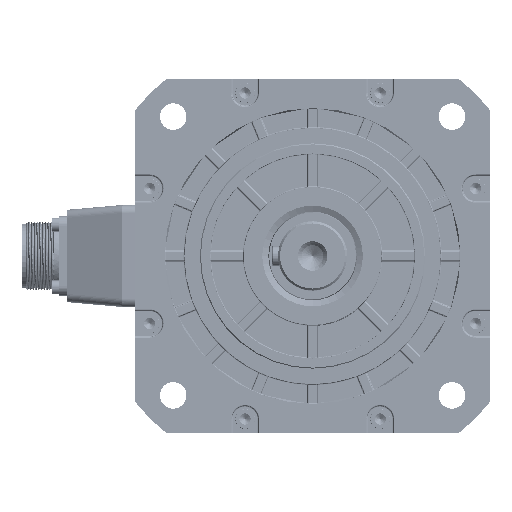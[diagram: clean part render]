
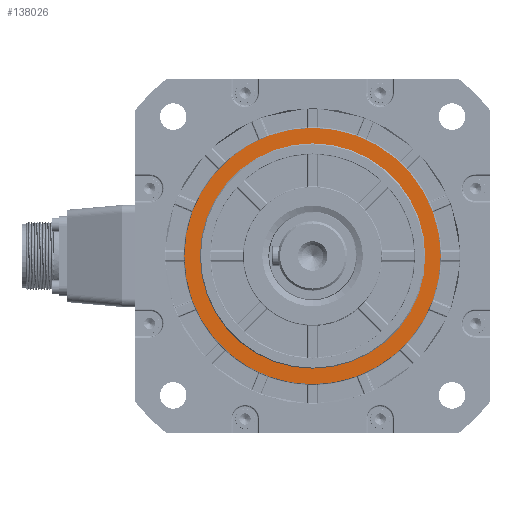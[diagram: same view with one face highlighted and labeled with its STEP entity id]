
A CAD part, left-side view. The second image highlights one B-rep face of the part: STEP entity #138026.
In plain terms, the highlighted planar face has unit normal (-1, 0, 0).
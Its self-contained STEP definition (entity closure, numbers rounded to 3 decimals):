
#117966=CARTESIAN_POINT('',(3.2,0.,0.));
#117967=DIRECTION('',(-1.,0.,0.));
#117968=DIRECTION('',(0.,1.,0.));
#117969=AXIS2_PLACEMENT_3D('',#117966,#117967,#117968);
#117971=CARTESIAN_POINT('',(3.2,0.,0.));
#117972=DIRECTION('',(1.,0.,0.));
#117973=DIRECTION('',(0.,1.,0.));
#117974=AXIS2_PLACEMENT_3D('',#117971,#117972,#117973);
#118016=CARTESIAN_POINT('',(3.2,0.,0.));
#118017=DIRECTION('',(-1.,0.,0.));
#118018=DIRECTION('',(0.,0.,-1.));
#118019=AXIS2_PLACEMENT_3D('',#118016,#118017,#118018);
#118021=CARTESIAN_POINT('',(3.2,0.,0.));
#118022=DIRECTION('',(-1.,0.,0.));
#118023=DIRECTION('',(0.,0.,1.));
#118024=AXIS2_PLACEMENT_3D('',#118021,#118022,#118023);
#126648=CARTESIAN_POINT('',(3.2,57.15,0.));
#126649=CARTESIAN_POINT('',(3.2,-57.15,0.));
#126650=VERTEX_POINT('',#126648);
#126651=VERTEX_POINT('',#126649);
#126868=CARTESIAN_POINT('',(3.2,0.,-65.));
#126869=CARTESIAN_POINT('',(3.2,0.,65.));
#126870=VERTEX_POINT('',#126868);
#126871=VERTEX_POINT('',#126869);
#138009=CARTESIAN_POINT('',(3.2,0.,0.));
#138010=DIRECTION('',(1.,0.,0.));
#138011=DIRECTION('',(0.,-1.,0.));
#138012=AXIS2_PLACEMENT_3D('',#138009,#138010,#138011);
#138013=PLANE('',#138012);
#138015=ORIENTED_EDGE('',*,*,#138014,.F.);
#138017=ORIENTED_EDGE('',*,*,#138016,.F.);
#138018=EDGE_LOOP('',(#138015,#138017));
#138019=FACE_OUTER_BOUND('',#138018,.F.);
#138021=ORIENTED_EDGE('',*,*,#138020,.T.);
#138023=ORIENTED_EDGE('',*,*,#138022,.F.);
#138024=EDGE_LOOP('',(#138021,#138023));
#138025=FACE_BOUND('',#138024,.F.);
#138026=ADVANCED_FACE('',(#138019,#138025),#138013,.F.);
#117970=CIRCLE('',#117969,57.15);
#117975=CIRCLE('',#117974,57.15);
#118020=CIRCLE('',#118019,65.);
#118025=CIRCLE('',#118024,65.);
#138014=EDGE_CURVE('',#126870,#126871,#118020,.T.);
#138016=EDGE_CURVE('',#126871,#126870,#118025,.T.);
#138020=EDGE_CURVE('',#126650,#126651,#117970,.T.);
#138022=EDGE_CURVE('',#126650,#126651,#117975,.T.);
